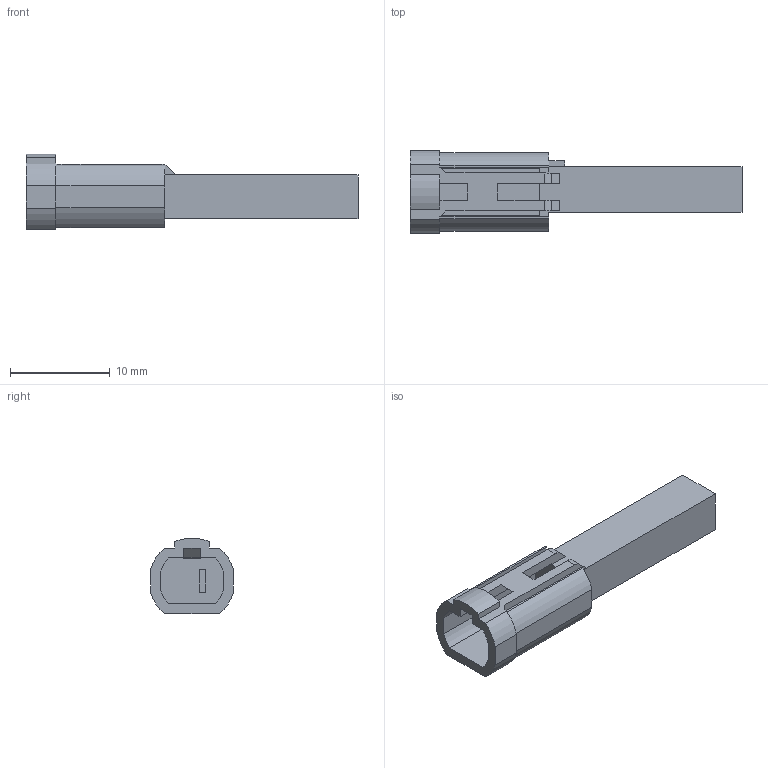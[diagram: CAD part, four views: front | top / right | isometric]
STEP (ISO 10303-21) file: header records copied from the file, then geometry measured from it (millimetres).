
FILE_DESCRIPTION(('CATIA V5 STEP Exchange','CAx-IF Rec.Pracs.--- Model Styling and Organization---1.2---2011-12-15'),'2;1');
FILE_NAME('N:\C-DAM_MyDesk\ENV\900093\6242-1011.stp','2015-01-21T01:34:36+00:00',('none'),('none'),'CATIA Version 5-6 Release 2012 SP4 HF74','CATIA V5 STEP AP214','none');
FILE_SCHEMA(('AUTOMOTIVE_DESIGN { 1 0 10303 214 1 1 1 1 }'));
Length unit declared in the file: millimetre
Products named in the file (1): 6242-1011
Bounding box: 33.3 x 8.3 x 7.58 mm (x, y, z)
Volume: 657.9 mm3; surface area: 1103 mm2
Topology: 1 solids, 1 shells, 72 faces, 217 edges, 142 vertices
Faces by surface type: plane 56, cylinder 14, bspline 2
Entity records: 2392 total; most frequent: CARTESIAN_POINT 478, ORIENTED_EDGE 434, DIRECTION 326, EDGE_CURVE 217, VECTOR 184, LINE 184, VERTEX_POINT 142, AXIS2_PLACEMENT_3D 86
